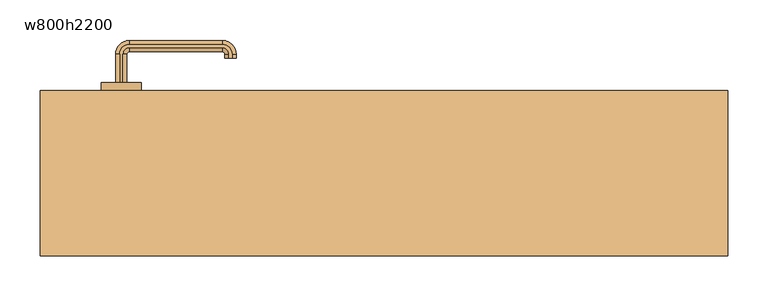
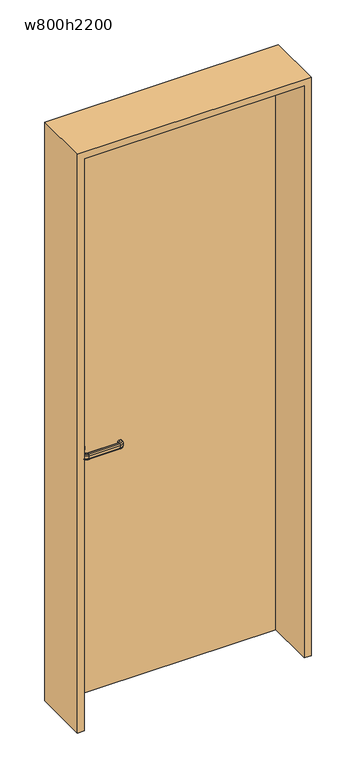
"""IFC4 building model written with IfcOpenShell, lengths in millimetres: door geometry, 片開き : w800h2200."""

from ifc_helpers import new_model, si_unit, point, frame, frame_2d, origin, origin_with_axes, place, context, project, spatial, polyline, circle_curve, ellipse_curve, trimmed, segment, composite_curve, outline, extrude, source, transform, mapped, element, save
from ifc_brep_helpers import plane_surface, cylinder_surface, revolved_surface, advanced_brep


def w800h2200_b9bfe460(model_context):
    return source(origin(), model_context, "Body", "SolidModel", [
        advanced_brep(
        [(-327.0, 112.5, 960.0), (-332.0, 112.5, 955.0), (-332.0, 112.5, 945.0477623), (-327.0, 112.5, 940.0477623), (-323.0, 112.5, 940.0477623), (-318.0, 112.5, 945.0477623), (-318.0, 112.5, 955.0), (-323.0, 112.5, 960.0), (-327.0, 147.5, 960.0), (-332.0, 147.5, 955.0), (-332.0, 147.5, 945.0477623), (-327.0, 147.5, 940.0477623), (-315.0, 159.5, 940.0477623), (-200.0, 159.5, 940.0477623), (-188.0, 147.5, 940.0477623), (-188.0, 142.5, 940.0477623), (-192.0, 142.5, 940.0477623), (-192.0, 147.5, 940.0477623), (-200.0, 155.5, 940.0477623), (-315.0, 155.5, 940.0477623), (-323.0, 147.5, 940.0477623), (-318.0, 147.5, 945.0477623), (-318.0, 147.5, 955.0), (-323.0, 147.5, 960.0), (-315.0, 155.5, 960.0), (-200.0, 155.5, 960.0), (-192.0, 147.5, 960.0), (-192.0, 142.5, 960.0), (-188.0, 142.5, 960.0), (-188.0, 147.5, 960.0), (-200.0, 159.5, 960.0), (-315.0, 159.5, 960.0), (-315.0, 164.5, 955.0), (-315.0, 164.5, 945.0477623), (-315.0, 150.5, 945.0477623), (-315.0, 150.5, 955.0), (-200.0, 164.5, 955.0), (-200.0, 164.5, 945.0477623), (-200.0, 150.5, 945.0477623), (-200.0, 150.5, 955.0), (-183.0, 147.5, 955.0), (-183.0, 147.5, 945.0477623), (-197.0, 147.5, 945.0477623), (-197.0, 147.5, 955.0), (-197.0, 142.5, 955.0), (-197.0, 142.5, 945.0477623), (-183.0, 142.5, 945.0477623), (-183.0, 142.5, 955.0)],
        [
            (0, 1, circle_curve(frame((-327.0, 112.5, 955.0), z_axis=(0.0, -1.0, 0.0), x_axis=(-1.0, 0.0, 0.0)), 5.0)),
            (1, 2),
            (2, 3, circle_curve(frame((-327.0, 112.5, 945.0477623), z_axis=(0.0, -1.0, 0.0), x_axis=(-1.0, 0.0, 0.0)), 5.0)),
            (3, 4),
            (4, 5, circle_curve(frame((-323.0, 112.5, 945.0477623), z_axis=(0.0, -1.0, 0.0), x_axis=(-1.0, 0.0, 0.0)), 5.0)),
            (5, 6),
            (6, 7, circle_curve(frame((-323.0, 112.5, 955.0), z_axis=(0.0, -1.0, 0.0), x_axis=(-1.0, 0.0, 0.0)), 5.0)),
            (7, 0),
            (0, 8),
            (8, 9, circle_curve(frame((-327.0, 147.5, 955.0), z_axis=(0.0, -1.0, 0.0), x_axis=(-1.0, 0.0, 0.0)), 5.0)),
            (9, 1),
            (9, 10),
            (10, 2),
            (10, 11, circle_curve(frame((-327.0, 147.5, 945.0477623), z_axis=(0.0, -1.0, 0.0), x_axis=(-1.0, 0.0, 0.0)), 5.0)),
            (11, 3),
            (11, 12, circle_curve(frame((-315.0, 147.5, 940.0477623), z_axis=(0.0, 0.0, -1.0), x_axis=(-1.0, 0.0, 0.0)), 12.0)),
            (12, 13),
            (13, 14, circle_curve(frame((-200.0, 147.5, 940.0477623), z_axis=(0.0, 0.0, -1.0), x_axis=(0.0, 1.0, 0.0)), 12.0)),
            (14, 15),
            (15, 16),
            (16, 17),
            (17, 18, circle_curve(frame((-200.0, 147.5, 940.0477623), z_axis=(0.0, 0.0, 1.0), x_axis=(0.0, 1.0, 0.0)), 8.0)),
            (18, 19),
            (19, 20, circle_curve(frame((-315.0, 147.5, 940.0477623), z_axis=(0.0, 0.0, 1.0), x_axis=(-1.0, 0.0, 0.0)), 8.0)),
            (20, 4),
            (20, 21, circle_curve(frame((-323.0, 147.5, 945.0477623), z_axis=(0.0, -1.0, 0.0), x_axis=(-1.0, 0.0, 0.0)), 5.0)),
            (21, 5),
            (21, 22),
            (22, 6),
            (22, 23, circle_curve(frame((-323.0, 147.5, 955.0), z_axis=(0.0, -1.0, 0.0), x_axis=(-1.0, 0.0, 0.0)), 5.0)),
            (23, 7),
            (23, 24, circle_curve(frame((-315.0, 147.5, 960.0), z_axis=(0.0, 0.0, -1.0), x_axis=(-1.0, 0.0, 0.0)), 8.0)),
            (24, 25),
            (25, 26, circle_curve(frame((-200.0, 147.5, 960.0), z_axis=(0.0, 0.0, -1.0), x_axis=(0.0, 1.0, 0.0)), 8.0)),
            (26, 27),
            (27, 28),
            (28, 29),
            (29, 30, circle_curve(frame((-200.0, 147.5, 960.0), z_axis=(0.0, 0.0, 1.0), x_axis=(0.0, 1.0, 0.0)), 12.0)),
            (30, 31),
            (31, 8, circle_curve(frame((-315.0, 147.5, 960.0), z_axis=(0.0, 0.0, 1.0), x_axis=(-1.0, 0.0, 0.0)), 12.0)),
            (32, 9, circle_curve(frame((-315.0, 147.5, 955.0), z_axis=(0.0, 0.0, 1.0), x_axis=(-1.0, 0.0, 0.0)), 17.0)),
            (31, 32, circle_curve(frame((-315.0, 159.5, 955.0), z_axis=(-1.0, 0.0, 0.0), x_axis=(0.0, 1.0, 0.0)), 5.0)),
            (33, 10, circle_curve(frame((-315.0, 147.5, 945.0477623), z_axis=(0.0, 0.0, 1.0), x_axis=(-1.0, 0.0, 0.0)), 17.0)),
            (32, 33),
            (33, 12, circle_curve(frame((-315.0, 159.5, 945.0477623), z_axis=(-1.0, 0.0, 0.0), x_axis=(0.0, 1.0, 0.0)), 5.0)),
            (34, 21, circle_curve(frame((-315.0, 147.5, 945.0477623), z_axis=(0.0, 0.0, 1.0), x_axis=(-1.0, 0.0, 0.0)), 3.0)),
            (19, 34, circle_curve(frame((-315.0, 155.5, 945.0477623), z_axis=(-1.0, 0.0, 0.0), x_axis=(0.0, 1.0, 0.0)), 5.0)),
            (35, 22, circle_curve(frame((-315.0, 147.5, 955.0), z_axis=(0.0, 0.0, 1.0), x_axis=(-1.0, 0.0, 0.0)), 3.0)),
            (34, 35),
            (35, 24, circle_curve(frame((-315.0, 155.5, 955.0), z_axis=(-1.0, 0.0, 0.0), x_axis=(0.0, 1.0, 0.0)), 5.0)),
            (30, 36, circle_curve(frame((-200.0, 159.5, 955.0), z_axis=(-1.0, 0.0, 0.0), x_axis=(0.0, 1.0, 0.0)), 5.0)),
            (36, 32),
            (36, 37),
            (37, 33),
            (37, 13, circle_curve(frame((-200.0, 159.5, 945.0477623), z_axis=(-1.0, 0.0, 0.0), x_axis=(0.0, 1.0, 0.0)), 5.0)),
            (18, 38, circle_curve(frame((-200.0, 155.5, 945.0477623), z_axis=(-1.0, 0.0, 0.0), x_axis=(0.0, 1.0, 0.0)), 5.0)),
            (38, 34),
            (38, 39),
            (39, 35),
            (39, 25, circle_curve(frame((-200.0, 155.5, 955.0), z_axis=(-1.0, 0.0, 0.0), x_axis=(0.0, 1.0, 0.0)), 5.0)),
            (40, 36, circle_curve(frame((-200.0, 147.5, 955.0), z_axis=(0.0, 0.0, 1.0), x_axis=(0.0, 1.0, 0.0)), 17.0)),
            (29, 40, circle_curve(frame((-188.0, 147.5, 955.0), z_axis=(0.0, 1.0, 0.0), x_axis=(1.0, 0.0, 0.0)), 5.0)),
            (41, 37, circle_curve(frame((-200.0, 147.5, 945.0477623), z_axis=(0.0, 0.0, 1.0), x_axis=(0.0, 1.0, 0.0)), 17.0)),
            (40, 41),
            (41, 14, circle_curve(frame((-188.0, 147.5, 945.0477623), z_axis=(0.0, 1.0, 0.0), x_axis=(1.0, 0.0, 0.0)), 5.0)),
            (42, 38, circle_curve(frame((-200.0, 147.5, 945.0477623), z_axis=(0.0, 0.0, 1.0), x_axis=(0.0, 1.0, 0.0)), 3.0)),
            (17, 42, circle_curve(frame((-192.0, 147.5, 945.0477623), z_axis=(0.0, 1.0, 0.0), x_axis=(1.0, 0.0, 0.0)), 5.0)),
            (43, 39, circle_curve(frame((-200.0, 147.5, 955.0), z_axis=(0.0, 0.0, 1.0), x_axis=(0.0, 1.0, 0.0)), 3.0)),
            (42, 43),
            (43, 26, circle_curve(frame((-192.0, 147.5, 955.0), z_axis=(0.0, 1.0, 0.0), x_axis=(1.0, 0.0, 0.0)), 5.0)),
            (27, 44, circle_curve(frame((-192.0, 142.5, 955.0), z_axis=(0.0, -1.0, 0.0), x_axis=(1.0, 0.0, 0.0)), 5.0)),
            (44, 45),
            (45, 16, circle_curve(frame((-192.0, 142.5, 945.0477623), z_axis=(0.0, -1.0, 0.0), x_axis=(1.0, 0.0, 0.0)), 5.0)),
            (15, 46, circle_curve(frame((-188.0, 142.5, 945.0477623), z_axis=(0.0, -1.0, 0.0), x_axis=(1.0, 0.0, 0.0)), 5.0)),
            (46, 47),
            (47, 28, circle_curve(frame((-188.0, 142.5, 955.0), z_axis=(0.0, -1.0, 0.0), x_axis=(1.0, 0.0, 0.0)), 5.0)),
            (47, 40),
            (46, 41),
            (45, 42),
            (44, 43),
        ],
        [
            plane_surface(frame((-335.198039, 112.5, 950.0), z_axis=(0.0, -1.0, 0.0), x_axis=(0.0, 0.0, 1.0))),
            cylinder_surface(frame((-327.0, 112.5, 955.0), z_axis=(0.0, -1.0, 0.0), x_axis=(-1.0, 0.0, 0.0)), 5.0),
            plane_surface(frame((-332.0, 112.5, 955.0), z_axis=(-1.0, 0.0, 0.0), x_axis=(0.0, 1.0, 0.0))),
            cylinder_surface(frame((-327.0, 112.5, 945.0477623), z_axis=(0.0, -1.0, 0.0), x_axis=(-1.0, 0.0, 0.0)), 5.0),
            plane_surface(frame((-327.0, 112.5, 940.0477623), z_axis=(0.0, 0.0, -1.0), x_axis=(0.0, 1.0, 0.0))),
            cylinder_surface(frame((-323.0, 112.5, 945.0477623), z_axis=(0.0, -1.0, 0.0), x_axis=(-1.0, 0.0, 0.0)), 5.0),
            plane_surface(frame((-318.0, 112.5, 945.0477623), z_axis=(1.0, 0.0, 0.0), x_axis=(0.0, 1.0, 0.0))),
            cylinder_surface(frame((-323.0, 112.5, 955.0), z_axis=(0.0, -1.0, 0.0), x_axis=(-1.0, 0.0, 0.0)), 5.0),
            plane_surface(frame((-323.0, 112.5, 960.0), z_axis=(0.0, 0.0, 1.0), x_axis=(0.0, 1.0, 0.0))),
            revolved_surface(trimmed(ellipse_curve(frame((-327.0, 147.5, 955.0), z_axis=(0.0, -1.0, 0.0), x_axis=(-1.0, 0.0, 0.0)), 5.0, 5.0), [point((-327.0, 147.5, 960.0))], [point((-332.0, 147.5, 955.0))], True, "CARTESIAN"), (-315.0, 147.5, 950.0), (0.0, 0.0, -1.0)),
            cylinder_surface(frame((-315.0, 147.5, 950.0), z_axis=(0.0, 0.0, -1.0), x_axis=(-1.0, 0.0, 0.0)), 17.0),
            revolved_surface(trimmed(ellipse_curve(frame((-327.0, 147.5, 945.0477623), z_axis=(0.0, -1.0, 0.0), x_axis=(-1.0, 0.0, 0.0)), 5.0, 5.0), [point((-332.0, 147.5, 945.0477623))], [point((-327.0, 147.5, 940.0477623))], True, "CARTESIAN"), (-315.0, 147.5, 950.0), (0.0, 0.0, -1.0)),
            revolved_surface(trimmed(ellipse_curve(frame((-323.0, 147.5, 945.0477623), z_axis=(0.0, -1.0, 0.0), x_axis=(-1.0, 0.0, 0.0)), 5.0, 5.0), [point((-323.0, 147.5, 940.0477623))], [point((-318.0, 147.5, 945.0477623))], True, "CARTESIAN"), (-315.0, 147.5, 950.0), (0.0, 0.0, -1.0)),
            revolved_surface(polyline([(-318.0, 147.5, 945.0477623), (-318.0, 147.5, 955.0)]), (-315.0, 147.5, 950.0), (0.0, 0.0, -1.0)),
            revolved_surface(trimmed(ellipse_curve(frame((-323.0, 147.5, 955.0), z_axis=(0.0, -1.0, 0.0), x_axis=(-1.0, 0.0, 0.0)), 5.0, 5.0), [point((-318.0, 147.5, 955.0))], [point((-323.0, 147.5, 960.0))], True, "CARTESIAN"), (-315.0, 147.5, 950.0), (0.0, 0.0, -1.0)),
            cylinder_surface(frame((-315.0, 159.5, 955.0), z_axis=(-1.0, 0.0, 0.0), x_axis=(0.0, 1.0, 0.0)), 5.0),
            plane_surface(frame((-315.0, 164.5, 955.0), z_axis=(0.0, 1.0, 0.0), x_axis=(1.0, 0.0, 0.0))),
            cylinder_surface(frame((-315.0, 159.5, 945.0477623), z_axis=(-1.0, 0.0, 0.0), x_axis=(0.0, 1.0, 0.0)), 5.0),
            cylinder_surface(frame((-315.0, 155.5, 945.0477623), z_axis=(-1.0, 0.0, 0.0), x_axis=(0.0, 1.0, 0.0)), 5.0),
            plane_surface(frame((-315.0, 150.5, 945.0477623), z_axis=(0.0, -1.0, 0.0), x_axis=(1.0, 0.0, 0.0))),
            cylinder_surface(frame((-315.0, 155.5, 955.0), z_axis=(-1.0, 0.0, 0.0), x_axis=(0.0, 1.0, 0.0)), 5.0),
            revolved_surface(trimmed(ellipse_curve(frame((-200.0, 159.5, 955.0), z_axis=(-1.0, 0.0, 0.0), x_axis=(0.0, 1.0, 0.0)), 5.0, 5.0), [point((-200.0, 159.5, 960.0))], [point((-200.0, 164.5, 955.0))], True, "CARTESIAN"), (-200.0, 147.5, 950.0), (0.0, 0.0, -1.0)),
            cylinder_surface(frame((-200.0, 147.5, 950.0), z_axis=(0.0, 0.0, -1.0), x_axis=(0.0, 1.0, 0.0)), 17.0),
            revolved_surface(trimmed(ellipse_curve(frame((-200.0, 159.5, 945.0477623), z_axis=(-1.0, 0.0, 0.0), x_axis=(0.0, 1.0, 0.0)), 5.0, 5.0), [point((-200.0, 164.5, 945.0477623))], [point((-200.0, 159.5, 940.0477623))], True, "CARTESIAN"), (-200.0, 147.5, 950.0), (0.0, 0.0, -1.0)),
            revolved_surface(trimmed(ellipse_curve(frame((-200.0, 155.5, 945.0477623), z_axis=(-1.0, 0.0, 0.0), x_axis=(0.0, 1.0, 0.0)), 5.0, 5.0), [point((-200.0, 155.5, 940.0477623))], [point((-200.0, 150.5, 945.0477623))], True, "CARTESIAN"), (-200.0, 147.5, 950.0), (0.0, 0.0, -1.0)),
            revolved_surface(polyline([(-200.0, 150.5, 945.0477623), (-200.0, 150.5, 955.0)]), (-200.0, 147.5, 950.0), (0.0, 0.0, -1.0)),
            revolved_surface(trimmed(ellipse_curve(frame((-200.0, 155.5, 955.0), z_axis=(-1.0, 0.0, 0.0), x_axis=(0.0, 1.0, 0.0)), 5.0, 5.0), [point((-200.0, 150.5, 955.0))], [point((-200.0, 155.5, 960.0))], True, "CARTESIAN"), (-200.0, 147.5, 950.0), (0.0, 0.0, -1.0)),
            plane_surface(frame((-200.198039, 142.5, 950.0), z_axis=(0.0, -1.0, 0.0), x_axis=(0.0, 0.0, -1.0))),
            cylinder_surface(frame((-188.0, 147.5, 955.0), z_axis=(0.0, 1.0, 0.0), x_axis=(1.0, 0.0, 0.0)), 5.0),
            plane_surface(frame((-183.0, 147.5, 955.0), z_axis=(1.0, 0.0, 0.0), x_axis=(0.0, -1.0, 0.0))),
            cylinder_surface(frame((-188.0, 147.5, 945.0477623), z_axis=(0.0, 1.0, 0.0), x_axis=(1.0, 0.0, 0.0)), 5.0),
            cylinder_surface(frame((-192.0, 147.5, 945.0477623), z_axis=(0.0, 1.0, 0.0), x_axis=(1.0, 0.0, 0.0)), 5.0),
            plane_surface(frame((-197.0, 147.5, 945.0477623), z_axis=(-1.0, 0.0, 0.0), x_axis=(0.0, -1.0, 0.0))),
            cylinder_surface(frame((-192.0, 147.5, 955.0), z_axis=(0.0, 1.0, 0.0), x_axis=(1.0, 0.0, 0.0)), 5.0),
        ],
        [
            (0, [[1, 2, 3, 4, 5, 6, 7, 8]]),
            (1, [[-1, 9, 10, 11]]),
            (2, [[-2, -11, 12, 13]]),
            (3, [[-3, -13, 14, 15]]),
            (4, [[-4, -15, 16, 17, 18, 19, 20, 21, 22, 23, 24, 25]]),
            (5, [[-5, -25, 26, 27]]),
            (6, [[-6, -27, 28, 29]]),
            (7, [[-7, -29, 30, 31]]),
            (8, [[-8, -31, 32, 33, 34, 35, 36, 37, 38, 39, 40, -9]]),
            (9, [[41, -10, -40, 42]]),
            (10, [[43, -12, -41, 44]]),
            (11, [[-16, -14, -43, 45]]),
            (12, [[46, -26, -24, 47]]),
            (13, [[48, -28, -46, 49]]),
            (14, [[-32, -30, -48, 50]]),
            (15, [[-42, -39, 51, 52]]),
            (16, [[-44, -52, 53, 54]]),
            (17, [[-45, -54, 55, -17]]),
            (18, [[-47, -23, 56, 57]]),
            (19, [[-49, -57, 58, 59]]),
            (20, [[-50, -59, 60, -33]]),
            (21, [[61, -51, -38, 62]]),
            (22, [[63, -53, -61, 64]]),
            (23, [[-18, -55, -63, 65]]),
            (24, [[66, -56, -22, 67]]),
            (25, [[68, -58, -66, 69]]),
            (26, [[-34, -60, -68, 70]]),
            (27, [[-36, 71, 72, 73, -20, 74, 75, 76]]),
            (28, [[-62, -37, -76, 77]]),
            (29, [[-64, -77, -75, 78]]),
            (30, [[-65, -78, -74, -19]]),
            (31, [[-67, -21, -73, 79]]),
            (32, [[-69, -79, -72, 80]]),
            (33, [[-70, -80, -71, -35]]),
        ],
    ),
        advanced_brep(
        [(-323.0, 67.5, 940.0), (-327.0, 67.5, 940.0), (-332.0, 67.5, 945.0), (-332.0, 67.5, 955.0), (-327.0, 67.5, 960.0), (-323.0, 67.5, 960.0), (-318.0, 67.5, 955.0), (-318.0, 67.5, 945.0), (-323.0, 32.5, 940.0), (-315.0, 24.5, 940.0), (-200.0, 24.5, 940.0), (-192.0, 32.5, 940.0), (-192.0, 37.5, 940.0), (-188.0, 37.5, 940.0), (-188.0, 32.5, 940.0), (-200.0, 20.5, 940.0), (-315.0, 20.5, 940.0), (-327.0, 32.5, 940.0), (-332.0, 32.5, 945.0), (-332.0, 32.5, 955.0), (-327.0, 32.5, 960.0), (-315.0, 20.5, 960.0), (-200.0, 20.5, 960.0), (-188.0, 32.5, 960.0), (-188.0, 37.5, 960.0), (-192.0, 37.5, 960.0), (-192.0, 32.5, 960.0), (-200.0, 24.5, 960.0), (-315.0, 24.5, 960.0), (-323.0, 32.5, 960.0), (-318.0, 32.5, 955.0), (-318.0, 32.5, 945.0), (-315.0, 15.5, 945.0), (-315.0, 15.5, 955.0), (-315.0, 29.5, 955.0), (-315.0, 29.5, 945.0), (-200.0, 15.5, 945.0), (-200.0, 15.5, 955.0), (-200.0, 29.5, 955.0), (-200.0, 29.5, 945.0), (-183.0, 32.5, 945.0), (-183.0, 32.5, 955.0), (-197.0, 32.5, 955.0), (-197.0, 32.5, 945.0), (-197.0, 37.5, 945.0), (-197.0, 37.5, 955.0), (-183.0, 37.5, 955.0), (-183.0, 37.5, 945.0)],
        [
            (0, 1),
            (1, 2, circle_curve(frame((-327.0, 67.5, 945.0), z_axis=(0.0, 1.0, 0.0), x_axis=(1.0, 0.0, 0.0)), 5.0)),
            (2, 3),
            (3, 4, circle_curve(frame((-327.0, 67.5, 955.0), z_axis=(0.0, 1.0, 0.0), x_axis=(1.0, 0.0, 0.0)), 5.0)),
            (4, 5),
            (5, 6, circle_curve(frame((-323.0, 67.5, 955.0), z_axis=(0.0, 1.0, 0.0), x_axis=(1.0, 0.0, 0.0)), 5.0)),
            (6, 7),
            (7, 0, circle_curve(frame((-323.0, 67.5, 945.0), z_axis=(0.0, 1.0, 0.0), x_axis=(1.0, 0.0, 0.0)), 5.0)),
            (0, 8),
            (8, 9, circle_curve(frame((-315.0, 32.5, 940.0), z_axis=(0.0, 0.0, 1.0), x_axis=(-1.0, 0.0, 0.0)), 8.0)),
            (9, 10),
            (10, 11, circle_curve(frame((-200.0, 32.5, 940.0), z_axis=(0.0, 0.0, 1.0), x_axis=(0.0, -1.0, 0.0)), 8.0)),
            (11, 12),
            (12, 13),
            (13, 14),
            (14, 15, circle_curve(frame((-200.0, 32.5, 940.0), z_axis=(0.0, 0.0, -1.0), x_axis=(0.0, -1.0, 0.0)), 12.0)),
            (15, 16),
            (16, 17, circle_curve(frame((-315.0, 32.5, 940.0), z_axis=(0.0, 0.0, -1.0), x_axis=(-1.0, 0.0, 0.0)), 12.0)),
            (17, 1),
            (17, 18, circle_curve(frame((-327.0, 32.5, 945.0), z_axis=(0.0, 1.0, 0.0), x_axis=(1.0, 0.0, 0.0)), 5.0)),
            (18, 2),
            (18, 19),
            (19, 3),
            (19, 20, circle_curve(frame((-327.0, 32.5, 955.0), z_axis=(0.0, 1.0, 0.0), x_axis=(1.0, 0.0, 0.0)), 5.0)),
            (20, 4),
            (20, 21, circle_curve(frame((-315.0, 32.5, 960.0), z_axis=(0.0, 0.0, 1.0), x_axis=(-1.0, 0.0, 0.0)), 12.0)),
            (21, 22),
            (22, 23, circle_curve(frame((-200.0, 32.5, 960.0), z_axis=(0.0, 0.0, 1.0), x_axis=(0.0, -1.0, 0.0)), 12.0)),
            (23, 24),
            (24, 25),
            (25, 26),
            (26, 27, circle_curve(frame((-200.0, 32.5, 960.0), z_axis=(0.0, 0.0, -1.0), x_axis=(0.0, -1.0, 0.0)), 8.0)),
            (27, 28),
            (28, 29, circle_curve(frame((-315.0, 32.5, 960.0), z_axis=(0.0, 0.0, -1.0), x_axis=(-1.0, 0.0, 0.0)), 8.0)),
            (29, 5),
            (29, 30, circle_curve(frame((-323.0, 32.5, 955.0), z_axis=(0.0, 1.0, 0.0), x_axis=(1.0, 0.0, 0.0)), 5.0)),
            (30, 6),
            (30, 31),
            (31, 7),
            (31, 8, circle_curve(frame((-323.0, 32.5, 945.0), z_axis=(0.0, 1.0, 0.0), x_axis=(1.0, 0.0, 0.0)), 5.0)),
            (32, 18, circle_curve(frame((-315.0, 32.5, 945.0), z_axis=(0.0, 0.0, -1.0), x_axis=(-1.0, 0.0, 0.0)), 17.0)),
            (16, 32, circle_curve(frame((-315.0, 20.5, 945.0), z_axis=(-1.0, 0.0, 0.0), x_axis=(0.0, 1.0, 0.0)), 5.0)),
            (33, 19, circle_curve(frame((-315.0, 32.5, 955.0), z_axis=(0.0, 0.0, -1.0), x_axis=(-1.0, 0.0, 0.0)), 17.0)),
            (32, 33),
            (33, 21, circle_curve(frame((-315.0, 20.5, 955.0), z_axis=(-1.0, 0.0, 0.0), x_axis=(0.0, 1.0, 0.0)), 5.0)),
            (34, 30, circle_curve(frame((-315.0, 32.5, 955.0), z_axis=(0.0, 0.0, -1.0), x_axis=(-1.0, 0.0, 0.0)), 3.0)),
            (28, 34, circle_curve(frame((-315.0, 24.5, 955.0), z_axis=(-1.0, 0.0, 0.0), x_axis=(0.0, 1.0, 0.0)), 5.0)),
            (35, 31, circle_curve(frame((-315.0, 32.5, 945.0), z_axis=(0.0, 0.0, -1.0), x_axis=(-1.0, 0.0, 0.0)), 3.0)),
            (34, 35),
            (35, 9, circle_curve(frame((-315.0, 24.5, 945.0), z_axis=(-1.0, 0.0, 0.0), x_axis=(0.0, 1.0, 0.0)), 5.0)),
            (15, 36, circle_curve(frame((-200.0, 20.5, 945.0), z_axis=(-1.0, 0.0, 0.0), x_axis=(0.0, 1.0, 0.0)), 5.0)),
            (36, 32),
            (36, 37),
            (37, 33),
            (37, 22, circle_curve(frame((-200.0, 20.5, 955.0), z_axis=(-1.0, 0.0, 0.0), x_axis=(0.0, 1.0, 0.0)), 5.0)),
            (27, 38, circle_curve(frame((-200.0, 24.5, 955.0), z_axis=(-1.0, 0.0, 0.0), x_axis=(0.0, 1.0, 0.0)), 5.0)),
            (38, 34),
            (38, 39),
            (39, 35),
            (39, 10, circle_curve(frame((-200.0, 24.5, 945.0), z_axis=(-1.0, 0.0, 0.0), x_axis=(0.0, 1.0, 0.0)), 5.0)),
            (40, 36, circle_curve(frame((-200.0, 32.5, 945.0), z_axis=(0.0, 0.0, -1.0), x_axis=(0.0, -1.0, 0.0)), 17.0)),
            (14, 40, circle_curve(frame((-188.0, 32.5, 945.0), z_axis=(0.0, -1.0, 0.0), x_axis=(-1.0, 0.0, 0.0)), 5.0)),
            (41, 37, circle_curve(frame((-200.0, 32.5, 955.0), z_axis=(0.0, 0.0, -1.0), x_axis=(0.0, -1.0, 0.0)), 17.0)),
            (40, 41),
            (41, 23, circle_curve(frame((-188.0, 32.5, 955.0), z_axis=(0.0, -1.0, 0.0), x_axis=(-1.0, 0.0, 0.0)), 5.0)),
            (42, 38, circle_curve(frame((-200.0, 32.5, 955.0), z_axis=(0.0, 0.0, -1.0), x_axis=(0.0, -1.0, 0.0)), 3.0)),
            (26, 42, circle_curve(frame((-192.0, 32.5, 955.0), z_axis=(0.0, -1.0, 0.0), x_axis=(-1.0, 0.0, 0.0)), 5.0)),
            (43, 39, circle_curve(frame((-200.0, 32.5, 945.0), z_axis=(0.0, 0.0, -1.0), x_axis=(0.0, -1.0, 0.0)), 3.0)),
            (42, 43),
            (43, 11, circle_curve(frame((-192.0, 32.5, 945.0), z_axis=(0.0, -1.0, 0.0), x_axis=(-1.0, 0.0, 0.0)), 5.0)),
            (12, 44, circle_curve(frame((-192.0, 37.5, 945.0), z_axis=(0.0, 1.0, 0.0), x_axis=(-1.0, 0.0, 0.0)), 5.0)),
            (44, 45),
            (45, 25, circle_curve(frame((-192.0, 37.5, 955.0), z_axis=(0.0, 1.0, 0.0), x_axis=(-1.0, 0.0, 0.0)), 5.0)),
            (24, 46, circle_curve(frame((-188.0, 37.5, 955.0), z_axis=(0.0, 1.0, 0.0), x_axis=(-1.0, 0.0, 0.0)), 5.0)),
            (46, 47),
            (47, 13, circle_curve(frame((-188.0, 37.5, 945.0), z_axis=(0.0, 1.0, 0.0), x_axis=(-1.0, 0.0, 0.0)), 5.0)),
            (47, 40),
            (46, 41),
            (45, 42),
            (44, 43),
        ],
        [
            plane_surface(frame((-335.198039, 67.5, 950.0), z_axis=(0.0, 1.0, 0.0), x_axis=(0.0, 0.0, -1.0))),
            plane_surface(frame((-323.0, 67.5, 940.0), z_axis=(0.0, 0.0, -1.0), x_axis=(0.0, -1.0, 0.0))),
            cylinder_surface(frame((-327.0, 67.5, 945.0), z_axis=(0.0, 1.0, 0.0), x_axis=(1.0, 0.0, 0.0)), 5.0),
            plane_surface(frame((-332.0, 67.5, 945.0), z_axis=(-1.0, 0.0, 0.0), x_axis=(0.0, -1.0, 0.0))),
            cylinder_surface(frame((-327.0, 67.5, 955.0), z_axis=(0.0, 1.0, 0.0), x_axis=(1.0, 0.0, 0.0)), 5.0),
            plane_surface(frame((-327.0, 67.5, 960.0), z_axis=(0.0, 0.0, 1.0), x_axis=(0.0, -1.0, 0.0))),
            cylinder_surface(frame((-323.0, 67.5, 955.0), z_axis=(0.0, 1.0, 0.0), x_axis=(1.0, 0.0, 0.0)), 5.0),
            plane_surface(frame((-318.0, 67.5, 955.0), z_axis=(1.0, 0.0, 0.0), x_axis=(0.0, -1.0, 0.0))),
            cylinder_surface(frame((-323.0, 67.5, 945.0), z_axis=(0.0, 1.0, 0.0), x_axis=(1.0, 0.0, 0.0)), 5.0),
            revolved_surface(trimmed(ellipse_curve(frame((-327.0, 32.5, 945.0), z_axis=(0.0, 1.0, 0.0), x_axis=(1.0, 0.0, 0.0)), 5.0, 5.0), [point((-327.0, 32.5, 940.0))], [point((-332.0, 32.5, 945.0))], True, "CARTESIAN"), (-315.0, 32.5, 950.0), (0.0, 0.0, 1.0)),
            cylinder_surface(frame((-315.0, 32.5, 950.0), z_axis=(0.0, 0.0, 1.0), x_axis=(-1.0, 0.0, 0.0)), 17.0),
            revolved_surface(trimmed(ellipse_curve(frame((-327.0, 32.5, 955.0), z_axis=(0.0, 1.0, 0.0), x_axis=(1.0, 0.0, 0.0)), 5.0, 5.0), [point((-332.0, 32.5, 955.0))], [point((-327.0, 32.5, 960.0))], True, "CARTESIAN"), (-315.0, 32.5, 950.0), (0.0, 0.0, 1.0)),
            revolved_surface(trimmed(ellipse_curve(frame((-323.0, 32.5, 955.0), z_axis=(0.0, 1.0, 0.0), x_axis=(1.0, 0.0, 0.0)), 5.0, 5.0), [point((-323.0, 32.5, 960.0))], [point((-318.0, 32.5, 955.0))], True, "CARTESIAN"), (-315.0, 32.5, 950.0), (0.0, 0.0, 1.0)),
            revolved_surface(polyline([(-318.0, 32.5, 955.0), (-318.0, 32.5, 945.0)]), (-315.0, 32.5, 950.0), (0.0, 0.0, 1.0)),
            revolved_surface(trimmed(ellipse_curve(frame((-323.0, 32.5, 945.0), z_axis=(0.0, 1.0, 0.0), x_axis=(1.0, 0.0, 0.0)), 5.0, 5.0), [point((-318.0, 32.5, 945.0))], [point((-323.0, 32.5, 940.0))], True, "CARTESIAN"), (-315.0, 32.5, 950.0), (0.0, 0.0, 1.0)),
            cylinder_surface(frame((-315.0, 20.5, 945.0), z_axis=(-1.0, 0.0, 0.0), x_axis=(0.0, 1.0, 0.0)), 5.0),
            plane_surface(frame((-315.0, 15.5, 945.0), z_axis=(0.0, -1.0, 0.0), x_axis=(1.0, 0.0, 0.0))),
            cylinder_surface(frame((-315.0, 20.5, 955.0), z_axis=(-1.0, 0.0, 0.0), x_axis=(0.0, 1.0, 0.0)), 5.0),
            cylinder_surface(frame((-315.0, 24.5, 955.0), z_axis=(-1.0, 0.0, 0.0), x_axis=(0.0, 1.0, 0.0)), 5.0),
            plane_surface(frame((-315.0, 29.5, 955.0), z_axis=(0.0, 1.0, 0.0), x_axis=(1.0, 0.0, 0.0))),
            cylinder_surface(frame((-315.0, 24.5, 945.0), z_axis=(-1.0, 0.0, 0.0), x_axis=(0.0, 1.0, 0.0)), 5.0),
            revolved_surface(trimmed(ellipse_curve(frame((-200.0, 20.5, 945.0), z_axis=(-1.0, 0.0, 0.0), x_axis=(0.0, 1.0, 0.0)), 5.0, 5.0), [point((-200.0, 20.5, 940.0))], [point((-200.0, 15.5, 945.0))], True, "CARTESIAN"), (-200.0, 32.5, 950.0), (0.0, 0.0, 1.0)),
            cylinder_surface(frame((-200.0, 32.5, 950.0), z_axis=(0.0, 0.0, 1.0), x_axis=(0.0, -1.0, 0.0)), 17.0),
            revolved_surface(trimmed(ellipse_curve(frame((-200.0, 20.5, 955.0), z_axis=(-1.0, 0.0, 0.0), x_axis=(0.0, 1.0, 0.0)), 5.0, 5.0), [point((-200.0, 15.5, 955.0))], [point((-200.0, 20.5, 960.0))], True, "CARTESIAN"), (-200.0, 32.5, 950.0), (0.0, 0.0, 1.0)),
            revolved_surface(trimmed(ellipse_curve(frame((-200.0, 24.5, 955.0), z_axis=(-1.0, 0.0, 0.0), x_axis=(0.0, 1.0, 0.0)), 5.0, 5.0), [point((-200.0, 24.5, 960.0))], [point((-200.0, 29.5, 955.0))], True, "CARTESIAN"), (-200.0, 32.5, 950.0), (0.0, 0.0, 1.0)),
            revolved_surface(polyline([(-200.0, 29.5, 955.0), (-200.0, 29.5, 945.0)]), (-200.0, 32.5, 950.0), (0.0, 0.0, 1.0)),
            revolved_surface(trimmed(ellipse_curve(frame((-200.0, 24.5, 945.0), z_axis=(-1.0, 0.0, 0.0), x_axis=(0.0, 1.0, 0.0)), 5.0, 5.0), [point((-200.0, 29.5, 945.0))], [point((-200.0, 24.5, 940.0))], True, "CARTESIAN"), (-200.0, 32.5, 950.0), (0.0, 0.0, 1.0)),
            plane_surface(frame((-200.198039, 37.5, 950.0), z_axis=(0.0, 1.0, 0.0), x_axis=(0.0, 0.0, 1.0))),
            cylinder_surface(frame((-188.0, 32.5, 945.0), z_axis=(0.0, -1.0, 0.0), x_axis=(-1.0, 0.0, 0.0)), 5.0),
            plane_surface(frame((-183.0, 32.5, 945.0), z_axis=(1.0, 0.0, 0.0), x_axis=(0.0, 1.0, 0.0))),
            cylinder_surface(frame((-188.0, 32.5, 955.0), z_axis=(0.0, -1.0, 0.0), x_axis=(-1.0, 0.0, 0.0)), 5.0),
            cylinder_surface(frame((-192.0, 32.5, 955.0), z_axis=(0.0, -1.0, 0.0), x_axis=(-1.0, 0.0, 0.0)), 5.0),
            plane_surface(frame((-197.0, 32.5, 955.0), z_axis=(-1.0, 0.0, 0.0), x_axis=(0.0, 1.0, 0.0))),
            cylinder_surface(frame((-192.0, 32.5, 945.0), z_axis=(0.0, -1.0, 0.0), x_axis=(-1.0, 0.0, 0.0)), 5.0),
        ],
        [
            (0, [[1, 2, 3, 4, 5, 6, 7, 8]]),
            (1, [[-1, 9, 10, 11, 12, 13, 14, 15, 16, 17, 18, 19]]),
            (2, [[-2, -19, 20, 21]]),
            (3, [[-3, -21, 22, 23]]),
            (4, [[-4, -23, 24, 25]]),
            (5, [[-5, -25, 26, 27, 28, 29, 30, 31, 32, 33, 34, 35]]),
            (6, [[-6, -35, 36, 37]]),
            (7, [[-7, -37, 38, 39]]),
            (8, [[-8, -39, 40, -9]]),
            (9, [[41, -20, -18, 42]]),
            (10, [[43, -22, -41, 44]]),
            (11, [[-26, -24, -43, 45]]),
            (12, [[46, -36, -34, 47]]),
            (13, [[48, -38, -46, 49]]),
            (14, [[-10, -40, -48, 50]]),
            (15, [[-42, -17, 51, 52]]),
            (16, [[-44, -52, 53, 54]]),
            (17, [[-45, -54, 55, -27]]),
            (18, [[-47, -33, 56, 57]]),
            (19, [[-49, -57, 58, 59]]),
            (20, [[-50, -59, 60, -11]]),
            (21, [[61, -51, -16, 62]]),
            (22, [[63, -53, -61, 64]]),
            (23, [[-28, -55, -63, 65]]),
            (24, [[66, -56, -32, 67]]),
            (25, [[68, -58, -66, 69]]),
            (26, [[-12, -60, -68, 70]]),
            (27, [[71, 72, 73, -30, 74, 75, 76, -14]]),
            (28, [[-62, -15, -76, 77]]),
            (29, [[-64, -77, -75, 78]]),
            (30, [[-65, -78, -74, -29]]),
            (31, [[-67, -31, -73, 79]]),
            (32, [[-69, -79, -72, 80]]),
            (33, [[-70, -80, -71, -13]]),
        ],
    ),
        extrude(outline(composite_curve([segment(trimmed(circle_curve(frame_2d((950.0, -325.0)), 25.0), [point((950.0, -350.0))], [point((950.0, -300.0))], False, "CARTESIAN"), True, "CONTINUOUS"), segment(trimmed(circle_curve(frame_2d((950.0, -325.0)), 25.0), [point((950.0, -300.0))], [point((950.0, -350.0))], False, "CARTESIAN"), True, "CONTINUOUS")], self_intersect=False)), frame((0.0, 102.5, 0.0), z_axis=(0.0, 1.0, 0.0), x_axis=(0.0, 0.0, 1.0)), (0.0, 0.0, 1.0), 10.0),
        extrude(outline(composite_curve([segment(trimmed(circle_curve(frame_2d((950.0, -325.0)), 25.0), [point((950.0, -350.0))], [point((950.0, -300.0))], False, "CARTESIAN"), True, "CONTINUOUS"), segment(trimmed(circle_curve(frame_2d((950.0, -325.0)), 25.0), [point((950.0, -300.0))], [point((950.0, -350.0))], False, "CARTESIAN"), True, "CONTINUOUS")], self_intersect=False)), frame((0.0, 67.5, 0.0), z_axis=(0.0, 1.0, 0.0), x_axis=(0.0, 0.0, 1.0)), (0.0, 0.0, 1.0), 10.0),
        extrude(outline(polyline([(400.0, 77.5), (-400.0, 77.5), (-400.0, 102.5), (400.0, 102.5), (400.0, 77.5)])), origin_with_axes(), (0.0, 0.0, 1.0), 2200.0),
        extrude(outline(polyline([(2225.0, -425.0), (0.0, -425.0), (0.0, -400.0), (2200.0, -400.0), (2200.0, 400.0), (0.0, 400.0), (0.0, 425.0), (2225.0, 425.0), (2225.0, -425.0)])), frame((0.0, -102.5, 0.0), z_axis=(0.0, 1.0, 0.0), x_axis=(0.0, 0.0, 1.0)), (0.0, 0.0, 1.0), 205.0),
    ])


if __name__ == "__main__":
    model = new_model("IFC4")
    model_context = context("Model", 3, world=origin())
    ifc_project = project(units=[si_unit("LENGTHUNIT", "METRE", prefix="MILLI")], contexts=[model_context])
    site = spatial("IfcSite", under=ifc_project)
    building = spatial("IfcBuilding", under=site)
    placement = place(None, origin())
    w800h2200_shape = w800h2200_b9bfe460(model_context)
    element("IfcDoor", 1, ObjectType="片開き : w800h2200", at=placement, inside=building, context=model_context, shape_type="MappedRepresentation", body=[
        mapped(w800h2200_shape, transform((0.0, 0.0, 0.0), x_axis=(1.0, 0.0, 0.0), y_axis=(0.0, 1.0, 0.0), z_axis=(0.0, 0.0, 1.0))),
    ])
    save(model, "model.ifc")
